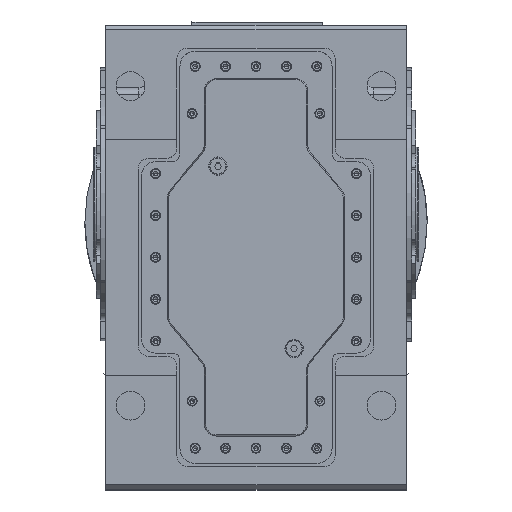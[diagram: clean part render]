
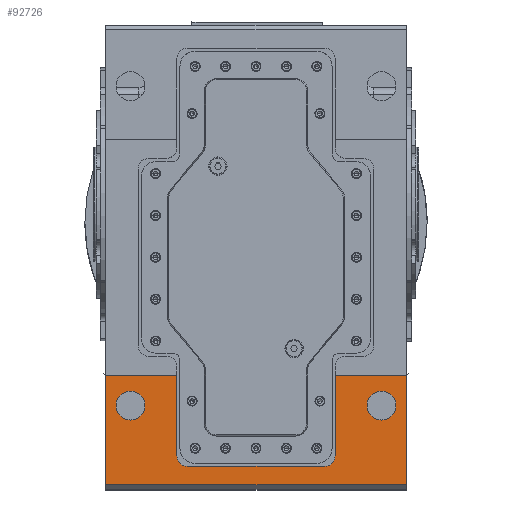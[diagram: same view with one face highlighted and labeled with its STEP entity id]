
A CAD part, top view. The second image highlights one B-rep face of the part: STEP entity #92726.
In plain terms, the highlighted planar face has unit normal (0, 0, 1).
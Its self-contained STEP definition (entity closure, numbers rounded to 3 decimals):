
#4372 = DIRECTION ( 'NONE',  ( 0., 0., -1. ) ) ;
#4376 = CARTESIAN_POINT ( 'NONE',  ( -165., -242.5, 687. ) ) ;
#4384 = DIRECTION ( 'NONE',  ( 1., 0., 0. ) ) ;
#6155 = EDGE_LOOP ( 'NONE', ( #45499, #45403, #45364, #45405, #45463, #45490, #45423, #45432, #45473, #45430 ) ) ;
#6162 = EDGE_LOOP ( 'NONE', ( #45492, #45460 ) ) ;
#6168 = EDGE_LOOP ( 'NONE', ( #45585, #45467 ) ) ;
#14174 = EDGE_CURVE ( 'NONE', #103259, #103274, #73728, .T. ) ;
#14343 = EDGE_CURVE ( 'NONE', #103318, #103303, #73893, .T. ) ;
#25642 = AXIS2_PLACEMENT_3D ( 'NONE', #49497, #49501, #49494 ) ;
#43560 = AXIS2_PLACEMENT_3D ( 'NONE', #4376, #4372, #4384 ) ;
#43620 = AXIS2_PLACEMENT_3D ( 'NONE', #70009, #69862, #69907 ) ;
#45364 = ORIENTED_EDGE ( 'NONE', *, *, #53946, .T. ) ;
#45403 = ORIENTED_EDGE ( 'NONE', *, *, #53727, .T. ) ;
#45405 = ORIENTED_EDGE ( 'NONE', *, *, #54289, .F. ) ;
#45423 = ORIENTED_EDGE ( 'NONE', *, *, #54401, .T. ) ;
#45430 = ORIENTED_EDGE ( 'NONE', *, *, #53762, .T. ) ;
#45432 = ORIENTED_EDGE ( 'NONE', *, *, #53786, .T. ) ;
#45460 = ORIENTED_EDGE ( 'NONE', *, *, #53881, .T. ) ;
#45463 = ORIENTED_EDGE ( 'NONE', *, *, #54418, .T. ) ;
#45467 = ORIENTED_EDGE ( 'NONE', *, *, #53690, .T. ) ;
#45473 = ORIENTED_EDGE ( 'NONE', *, *, #53749, .T. ) ;
#45490 = ORIENTED_EDGE ( 'NONE', *, *, #54403, .F. ) ;
#45492 = ORIENTED_EDGE ( 'NONE', *, *, #14174, .T. ) ;
#45499 = ORIENTED_EDGE ( 'NONE', *, *, #53763, .T. ) ;
#45585 = ORIENTED_EDGE ( 'NONE', *, *, #14343, .T. ) ;
#48454 = FACE_OUTER_BOUND ( 'NONE', #6155, .T. ) ;
#48508 = FACE_BOUND ( 'NONE', #6162, .T. ) ;
#48526 = FACE_BOUND ( 'NONE', #6168, .T. ) ;
#49420 = PLANE ( 'NONE',  #25642 ) ;
#49494 = DIRECTION ( 'NONE',  ( 1., 0., 0. ) ) ;
#49497 = CARTESIAN_POINT ( 'NONE',  ( -200., -202.5, 687. ) ) ;
#49501 = DIRECTION ( 'NONE',  ( 0., 0., 1. ) ) ;
#53690 = EDGE_CURVE ( 'NONE', #103303, #103318, #115377, .T. ) ;
#53727 = EDGE_CURVE ( 'NONE', #110090, #110075, #115448, .T. ) ;
#53749 = EDGE_CURVE ( 'NONE', #110061, #110115, #115492, .T. ) ;
#53762 = EDGE_CURVE ( 'NONE', #110115, #110053, #115490, .T. ) ;
#53763 = EDGE_CURVE ( 'NONE', #110053, #110090, #115483, .T. ) ;
#53786 = EDGE_CURVE ( 'NONE', #110105, #110061, #115563, .T. ) ;
#53881 = EDGE_CURVE ( 'NONE', #103274, #103259, #114287, .T. ) ;
#53946 = EDGE_CURVE ( 'NONE', #110075, #54989, #114430, .T. ) ;
#54289 = EDGE_CURVE ( 'NONE', #54959, #54989, #85572, .T. ) ;
#54401 = EDGE_CURVE ( 'NONE', #54932, #110105, #85675, .T. ) ;
#54403 = EDGE_CURVE ( 'NONE', #54932, #54820, #85659, .T. ) ;
#54418 = EDGE_CURVE ( 'NONE', #54959, #54820, #85656, .T. ) ;
#54820 = VERTEX_POINT ( 'NONE', #65619 ) ;
#54932 = VERTEX_POINT ( 'NONE', #65712 ) ;
#54959 = VERTEX_POINT ( 'NONE', #65684 ) ;
#54989 = VERTEX_POINT ( 'NONE', #65743 ) ;
#56861 = CARTESIAN_POINT ( 'NONE',  ( 184., -242.5, 687. ) ) ;
#61057 = CARTESIAN_POINT ( 'NONE',  ( -90., -322.5, 687. ) ) ;
#61061 = CARTESIAN_POINT ( 'NONE',  ( 104., -308.5, 687. ) ) ;
#61074 = CARTESIAN_POINT ( 'NONE',  ( -104., -202.5, 687. ) ) ;
#61088 = CARTESIAN_POINT ( 'NONE',  ( -104., -308.5, 687. ) ) ;
#61122 = CARTESIAN_POINT ( 'NONE',  ( 90., -322.5, 687. ) ) ;
#61142 = CARTESIAN_POINT ( 'NONE',  ( 104., -202.5, 687. ) ) ;
#61472 = CARTESIAN_POINT ( 'NONE',  ( -146., -242.5, 687. ) ) ;
#61476 = CARTESIAN_POINT ( 'NONE',  ( 146., -242.5, 687. ) ) ;
#61484 = CARTESIAN_POINT ( 'NONE',  ( -184., -242.5, 687. ) ) ;
#64366 = AXIS2_PLACEMENT_3D ( 'NONE', #77661, #77632, #77678 ) ;
#64369 = AXIS2_PLACEMENT_3D ( 'NONE', #77158, #77043, #77111 ) ;
#64416 = AXIS2_PLACEMENT_3D ( 'NONE', #77562, #77564, #77546 ) ;
#65049 = CARTESIAN_POINT ( 'NONE',  ( 197.5, 229.5, 687. ) ) ;
#65068 = DIRECTION ( 'NONE',  ( -1., 0., 0. ) ) ;
#65084 = CARTESIAN_POINT ( 'NONE',  ( -200., -202.5, 687. ) ) ;
#65095 = DIRECTION ( 'NONE',  ( 0., -1., 0. ) ) ;
#65134 = CARTESIAN_POINT ( 'NONE',  ( -200., -346.5, 687. ) ) ;
#65144 = DIRECTION ( 'NONE',  ( 1., 0., 0. ) ) ;
#65619 = CARTESIAN_POINT ( 'NONE',  ( 197.5, -346.5, 687. ) ) ;
#65684 = CARTESIAN_POINT ( 'NONE',  ( -197.5, -346.5, 687. ) ) ;
#65712 = CARTESIAN_POINT ( 'NONE',  ( 197.5, -202.5, 687. ) ) ;
#65743 = CARTESIAN_POINT ( 'NONE',  ( -197.5, -202.5, 687. ) ) ;
#69862 = DIRECTION ( 'NONE',  ( 0., 0., -1. ) ) ;
#69907 = DIRECTION ( 'NONE',  ( 1., 0., 0. ) ) ;
#70009 = CARTESIAN_POINT ( 'NONE',  ( 165., -242.5, 687. ) ) ;
#73728 = CIRCLE ( 'NONE', #43620, 19. ) ;
#73893 = CIRCLE ( 'NONE', #43560, 19. ) ;
#76345 = CARTESIAN_POINT ( 'NONE',  ( 165., -242.5, 687. ) ) ;
#76352 = DIRECTION ( 'NONE',  ( 0., 0., -1. ) ) ;
#76922 = DIRECTION ( 'NONE',  ( 1., 0., 0. ) ) ;
#77043 = DIRECTION ( 'NONE',  ( 0., 0., -1. ) ) ;
#77111 = DIRECTION ( 'NONE',  ( 1., 0., 0. ) ) ;
#77158 = CARTESIAN_POINT ( 'NONE',  ( -165., -242.5, 687. ) ) ;
#77396 = CARTESIAN_POINT ( 'NONE',  ( -104., -202.5, 687. ) ) ;
#77489 = DIRECTION ( 'NONE',  ( 0., 1., 0. ) ) ;
#77546 = DIRECTION ( 'NONE',  ( 1., 0., 0. ) ) ;
#77562 = CARTESIAN_POINT ( 'NONE',  ( 90., -308.5, 687. ) ) ;
#77564 = DIRECTION ( 'NONE',  ( 0., 0., -1. ) ) ;
#77632 = DIRECTION ( 'NONE',  ( 0., 0., -1. ) ) ;
#77660 = CARTESIAN_POINT ( 'NONE',  ( -200., -322.5, 687. ) ) ;
#77661 = CARTESIAN_POINT ( 'NONE',  ( -90., -308.5, 687. ) ) ;
#77678 = DIRECTION ( 'NONE',  ( 1., 0., 0. ) ) ;
#77690 = DIRECTION ( 'NONE',  ( -1., 0., 0. ) ) ;
#77723 = CARTESIAN_POINT ( 'NONE',  ( 104., -202.5, 687. ) ) ;
#77725 = DIRECTION ( 'NONE',  ( 0., -1., 0. ) ) ;
#80933 = AXIS2_PLACEMENT_3D ( 'NONE', #76345, #76352, #76922 ) ;
#84041 = CARTESIAN_POINT ( 'NONE',  ( -200., -202.5, 687. ) ) ;
#84138 = DIRECTION ( 'NONE',  ( -1., 0., 0. ) ) ;
#85378 = CARTESIAN_POINT ( 'NONE',  ( -197.5, 229.5, 687. ) ) ;
#85401 = DIRECTION ( 'NONE',  ( 0., 1., 0. ) ) ;
#85572 = LINE ( 'NONE', #85378, #85613 ) ;
#85613 = VECTOR ( 'NONE', #85401, 1000. ) ;
#85656 = LINE ( 'NONE', #65134, #85664 ) ;
#85659 = LINE ( 'NONE', #65049, #85681 ) ;
#85664 = VECTOR ( 'NONE', #65144, 1000. ) ;
#85675 = LINE ( 'NONE', #65084, #85686 ) ;
#85681 = VECTOR ( 'NONE', #65095, 1000. ) ;
#85686 = VECTOR ( 'NONE', #65068, 1000. ) ;
#92726 = ADVANCED_FACE ( 'NONE', ( #48454, #48508, #48526 ), #49420, .T. ) ;
#103259 = VERTEX_POINT ( 'NONE', #56861 ) ;
#103274 = VERTEX_POINT ( 'NONE', #61476 ) ;
#103303 = VERTEX_POINT ( 'NONE', #61484 ) ;
#103318 = VERTEX_POINT ( 'NONE', #61472 ) ;
#110053 = VERTEX_POINT ( 'NONE', #61057 ) ;
#110061 = VERTEX_POINT ( 'NONE', #61061 ) ;
#110075 = VERTEX_POINT ( 'NONE', #61074 ) ;
#110090 = VERTEX_POINT ( 'NONE', #61088 ) ;
#110105 = VERTEX_POINT ( 'NONE', #61142 ) ;
#110115 = VERTEX_POINT ( 'NONE', #61122 ) ;
#114287 = CIRCLE ( 'NONE', #80933, 19. ) ;
#114430 = LINE ( 'NONE', #84041, #114434 ) ;
#114434 = VECTOR ( 'NONE', #84138, 1000. ) ;
#115377 = CIRCLE ( 'NONE', #64369, 19. ) ;
#115446 = VECTOR ( 'NONE', #77489, 1000. ) ;
#115448 = LINE ( 'NONE', #77396, #115446 ) ;
#115463 = VECTOR ( 'NONE', #77690, 1000. ) ;
#115483 = CIRCLE ( 'NONE', #64366, 14. ) ;
#115490 = LINE ( 'NONE', #77660, #115463 ) ;
#115492 = CIRCLE ( 'NONE', #64416, 14. ) ;
#115563 = LINE ( 'NONE', #77723, #115564 ) ;
#115564 = VECTOR ( 'NONE', #77725, 1000. ) ;
